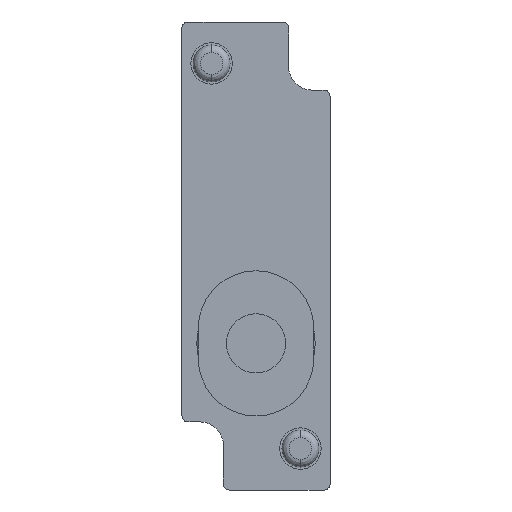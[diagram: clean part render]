
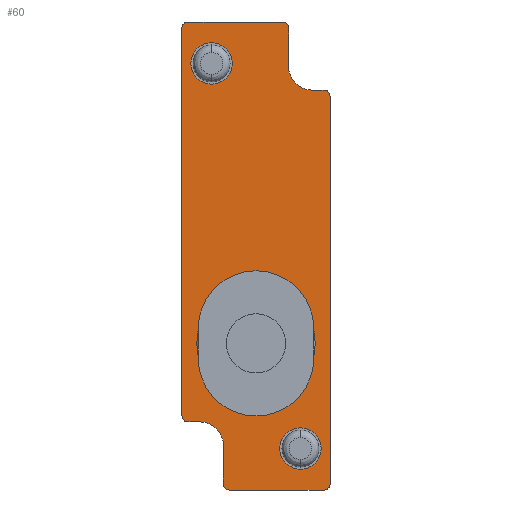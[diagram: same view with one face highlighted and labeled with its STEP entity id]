
A CAD part, front view. The second image highlights one B-rep face of the part: STEP entity #60.
In plain terms, the highlighted planar face has unit normal (0, -1, 0).
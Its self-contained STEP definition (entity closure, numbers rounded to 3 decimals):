
#60=ADVANCED_FACE('',(#289,#290,#291,#292),#288,.F.);
#288=PLANE('',#659);
#289=FACE_OUTER_BOUND('',#660,.T.);
#290=FACE_BOUND('',#661,.T.);
#291=FACE_BOUND('',#662,.T.);
#292=FACE_BOUND('',#663,.T.);
#656=CARTESIAN_POINT('',(-9.8,-5.,6.16));
#657=DIRECTION('',(0.,1.,0.));
#658=DIRECTION('',(1.,0.,0.));
#659=AXIS2_PLACEMENT_3D('',#656,#657,#658);
#660=EDGE_LOOP('',(#978,#979,#980,#981,#982,#983,#984,#985,#986,#987,#988,#989,#990,#991,#992,#993));
#661=EDGE_LOOP('',(#994,#995));
#662=EDGE_LOOP('',(#996,#997));
#663=EDGE_LOOP('',(#998,#999));
#978=ORIENTED_EDGE('',*,*,#1156,.T.);
#979=ORIENTED_EDGE('',*,*,#1153,.T.);
#980=ORIENTED_EDGE('',*,*,#1150,.T.);
#981=ORIENTED_EDGE('',*,*,#1147,.T.);
#982=ORIENTED_EDGE('',*,*,#1144,.T.);
#983=ORIENTED_EDGE('',*,*,#1141,.T.);
#984=ORIENTED_EDGE('',*,*,#1138,.F.);
#985=ORIENTED_EDGE('',*,*,#1135,.T.);
#986=ORIENTED_EDGE('',*,*,#1132,.T.);
#987=ORIENTED_EDGE('',*,*,#1129,.T.);
#988=ORIENTED_EDGE('',*,*,#1126,.T.);
#989=ORIENTED_EDGE('',*,*,#1123,.T.);
#990=ORIENTED_EDGE('',*,*,#1120,.T.);
#991=ORIENTED_EDGE('',*,*,#1117,.T.);
#992=ORIENTED_EDGE('',*,*,#1114,.F.);
#993=ORIENTED_EDGE('',*,*,#1110,.T.);
#994=ORIENTED_EDGE('',*,*,#1158,.F.);
#995=ORIENTED_EDGE('',*,*,#1159,.F.);
#996=ORIENTED_EDGE('',*,*,#1160,.F.);
#997=ORIENTED_EDGE('',*,*,#1161,.F.);
#998=ORIENTED_EDGE('',*,*,#1162,.F.);
#999=ORIENTED_EDGE('',*,*,#1163,.F.);
#1110=EDGE_CURVE('',#1276,#1277,#1278,.T.);
#1114=EDGE_CURVE('',#1276,#1304,#1305,.T.);
#1117=EDGE_CURVE('',#1324,#1304,#1325,.T.);
#1120=EDGE_CURVE('',#1344,#1324,#1345,.T.);
#1123=EDGE_CURVE('',#1364,#1344,#1365,.T.);
#1126=EDGE_CURVE('',#1384,#1364,#1385,.T.);
#1129=EDGE_CURVE('',#1404,#1384,#1405,.T.);
#1132=EDGE_CURVE('',#1424,#1404,#1425,.T.);
#1135=EDGE_CURVE('',#1444,#1424,#1445,.T.);
#1138=EDGE_CURVE('',#1444,#1464,#1465,.T.);
#1141=EDGE_CURVE('',#1484,#1464,#1485,.T.);
#1144=EDGE_CURVE('',#1504,#1484,#1505,.T.);
#1147=EDGE_CURVE('',#1524,#1504,#1525,.T.);
#1150=EDGE_CURVE('',#1544,#1524,#1545,.T.);
#1153=EDGE_CURVE('',#1564,#1544,#1565,.T.);
#1156=EDGE_CURVE('',#1277,#1564,#1584,.T.);
#1158=EDGE_CURVE('',#1596,#1597,#1598,.T.);
#1159=EDGE_CURVE('',#1597,#1596,#1604,.T.);
#1160=EDGE_CURVE('',#1610,#1611,#1612,.T.);
#1161=EDGE_CURVE('',#1611,#1610,#1618,.T.);
#1162=EDGE_CURVE('',#1624,#1625,#1626,.T.);
#1163=EDGE_CURVE('',#1625,#1624,#1632,.T.);
#1276=VERTEX_POINT('',#1962);
#1277=VERTEX_POINT('',#1963);
#1278=LINE('',#1964,#1965);
#1304=VERTEX_POINT('',#1978);
#1305=CIRCLE('',#1982,1.6);
#1324=VERTEX_POINT('',#1991);
#1325=LINE('',#1992,#1993);
#1344=VERTEX_POINT('',#2002);
#1345=CIRCLE('',#2006,0.4);
#1364=VERTEX_POINT('',#2015);
#1365=LINE('',#2016,#2017);
#1384=VERTEX_POINT('',#2026);
#1385=CIRCLE('',#2030,0.4);
#1404=VERTEX_POINT('',#2039);
#1405=LINE('',#2040,#2041);
#1424=VERTEX_POINT('',#2050);
#1425=CIRCLE('',#2054,0.4);
#1444=VERTEX_POINT('',#2063);
#1445=LINE('',#2064,#2065);
#1464=VERTEX_POINT('',#2074);
#1465=CIRCLE('',#2078,1.6);
#1484=VERTEX_POINT('',#2087);
#1485=LINE('',#2088,#2089);
#1504=VERTEX_POINT('',#2098);
#1505=CIRCLE('',#2102,0.4);
#1524=VERTEX_POINT('',#2111);
#1525=LINE('',#2112,#2113);
#1544=VERTEX_POINT('',#2122);
#1545=CIRCLE('',#2126,0.4);
#1564=VERTEX_POINT('',#2135);
#1565=LINE('',#2136,#2137);
#1584=CIRCLE('',#2149,0.4);
#1596=VERTEX_POINT('',#2154);
#1597=VERTEX_POINT('',#2155);
#1598=CIRCLE('',#2159,1.4);
#1604=CIRCLE('',#2163,1.4);
#1610=VERTEX_POINT('',#2164);
#1611=VERTEX_POINT('',#2165);
#1612=CIRCLE('',#2169,1.4);
#1618=CIRCLE('',#2173,1.4);
#1624=VERTEX_POINT('',#2174);
#1625=VERTEX_POINT('',#2175);
#1626=CIRCLE('',#2179,4.);
#1632=CIRCLE('',#2183,4.);
#1962=CARTESIAN_POINT('',(-1.6,-5.,0.));
#1963=CARTESIAN_POINT('',(-1.6,-5.,2.6));
#1964=CARTESIAN_POINT('',(-1.6,-5.,0.));
#1965=VECTOR('',#1966,2.6);
#1966=DIRECTION('',(0.,0.,1.));
#1978=CARTESIAN_POINT('',(0.,-5.,-1.6));
#1979=CARTESIAN_POINT('',(0.,-5.,0.));
#1980=DIRECTION('',(0.,-1.,0.));
#1981=DIRECTION('',(0.,0.,-1.));
#1982=AXIS2_PLACEMENT_3D('',#1979,#1980,#1981);
#1991=CARTESIAN_POINT('',(0.8,-5.,-1.6));
#1992=CARTESIAN_POINT('',(0.8,-5.,-1.6));
#1993=VECTOR('',#1994,0.8);
#1994=DIRECTION('',(-1.,0.,0.));
#2002=CARTESIAN_POINT('',(1.2,-5.,-2.));
#2003=CARTESIAN_POINT('',(0.8,-5.,-2.));
#2004=DIRECTION('',(0.,-1.,0.));
#2005=DIRECTION('',(0.,0.,-1.));
#2006=AXIS2_PLACEMENT_3D('',#2003,#2004,#2005);
#2015=CARTESIAN_POINT('',(1.2,-5.,-28.2));
#2016=CARTESIAN_POINT('',(1.2,-5.,-28.2));
#2017=VECTOR('',#2018,26.2);
#2018=DIRECTION('',(0.,0.,1.));
#2026=CARTESIAN_POINT('',(0.8,-5.,-28.6));
#2027=CARTESIAN_POINT('',(0.8,-5.,-28.2));
#2028=DIRECTION('',(0.,-1.,0.));
#2029=DIRECTION('',(0.,0.,-1.));
#2030=AXIS2_PLACEMENT_3D('',#2027,#2028,#2029);
#2039=CARTESIAN_POINT('',(-5.6,-5.,-28.6));
#2040=CARTESIAN_POINT('',(-5.6,-5.,-28.6));
#2041=VECTOR('',#2042,6.4);
#2042=DIRECTION('',(1.,0.,0.));
#2050=CARTESIAN_POINT('',(-6.,-5.,-28.2));
#2051=CARTESIAN_POINT('',(-5.6,-5.,-28.2));
#2052=DIRECTION('',(0.,-1.,0.));
#2053=DIRECTION('',(0.,0.,-1.));
#2054=AXIS2_PLACEMENT_3D('',#2051,#2052,#2053);
#2063=CARTESIAN_POINT('',(-6.,-5.,-25.6));
#2064=CARTESIAN_POINT('',(-6.,-5.,-25.6));
#2065=VECTOR('',#2066,2.6);
#2066=DIRECTION('',(0.,0.,-1.));
#2074=CARTESIAN_POINT('',(-7.6,-5.,-24.));
#2075=CARTESIAN_POINT('',(-7.6,-5.,-25.6));
#2076=DIRECTION('',(0.,-1.,0.));
#2077=DIRECTION('',(0.,0.,-1.));
#2078=AXIS2_PLACEMENT_3D('',#2075,#2076,#2077);
#2087=CARTESIAN_POINT('',(-8.4,-5.,-24.));
#2088=CARTESIAN_POINT('',(-8.4,-5.,-24.));
#2089=VECTOR('',#2090,0.8);
#2090=DIRECTION('',(1.,0.,0.));
#2098=CARTESIAN_POINT('',(-8.8,-5.,-23.6));
#2099=CARTESIAN_POINT('',(-8.4,-5.,-23.6));
#2100=DIRECTION('',(0.,-1.,0.));
#2101=DIRECTION('',(0.,0.,-1.));
#2102=AXIS2_PLACEMENT_3D('',#2099,#2100,#2101);
#2111=CARTESIAN_POINT('',(-8.8,-5.,2.6));
#2112=CARTESIAN_POINT('',(-8.8,-5.,2.6));
#2113=VECTOR('',#2114,26.2);
#2114=DIRECTION('',(0.,0.,-1.));
#2122=CARTESIAN_POINT('',(-8.4,-5.,3.));
#2123=CARTESIAN_POINT('',(-8.4,-5.,2.6));
#2124=DIRECTION('',(0.,-1.,0.));
#2125=DIRECTION('',(0.,0.,-1.));
#2126=AXIS2_PLACEMENT_3D('',#2123,#2124,#2125);
#2135=CARTESIAN_POINT('',(-2.,-5.,3.));
#2136=CARTESIAN_POINT('',(-2.,-5.,3.));
#2137=VECTOR('',#2138,6.4);
#2138=DIRECTION('',(-1.,0.,0.));
#2146=CARTESIAN_POINT('',(-2.,-5.,2.6));
#2147=DIRECTION('',(0.,-1.,0.));
#2148=DIRECTION('',(0.,0.,-1.));
#2149=AXIS2_PLACEMENT_3D('',#2146,#2147,#2148);
#2154=CARTESIAN_POINT('',(-6.8,-5.,-1.2));
#2155=CARTESIAN_POINT('',(-6.8,-5.,1.6));
#2156=CARTESIAN_POINT('',(-6.8,-5.,0.2));
#2157=DIRECTION('',(0.,-1.,0.));
#2158=DIRECTION('',(0.,0.,1.));
#2159=AXIS2_PLACEMENT_3D('',#2156,#2157,#2158);
#2160=CARTESIAN_POINT('',(-6.8,-5.,0.2));
#2161=DIRECTION('',(0.,-1.,0.));
#2162=DIRECTION('',(0.,0.,1.));
#2163=AXIS2_PLACEMENT_3D('',#2160,#2161,#2162);
#2164=CARTESIAN_POINT('',(-0.8,-5.,-27.2));
#2165=CARTESIAN_POINT('',(-0.8,-5.,-24.4));
#2166=CARTESIAN_POINT('',(-0.8,-5.,-25.8));
#2167=DIRECTION('',(0.,-1.,0.));
#2168=DIRECTION('',(0.,0.,1.));
#2169=AXIS2_PLACEMENT_3D('',#2166,#2167,#2168);
#2170=CARTESIAN_POINT('',(-0.8,-5.,-25.8));
#2171=DIRECTION('',(0.,-1.,0.));
#2172=DIRECTION('',(0.,0.,1.));
#2173=AXIS2_PLACEMENT_3D('',#2170,#2171,#2172);
#2174=CARTESIAN_POINT('',(-3.8,-5.,-22.7));
#2175=CARTESIAN_POINT('',(-3.8,-5.,-14.7));
#2176=CARTESIAN_POINT('',(-3.8,-5.,-18.7));
#2177=DIRECTION('',(0.,-1.,0.));
#2178=DIRECTION('',(0.,0.,1.));
#2179=AXIS2_PLACEMENT_3D('',#2176,#2177,#2178);
#2180=CARTESIAN_POINT('',(-3.8,-5.,-18.7));
#2181=DIRECTION('',(0.,-1.,0.));
#2182=DIRECTION('',(0.,0.,1.));
#2183=AXIS2_PLACEMENT_3D('',#2180,#2181,#2182);
